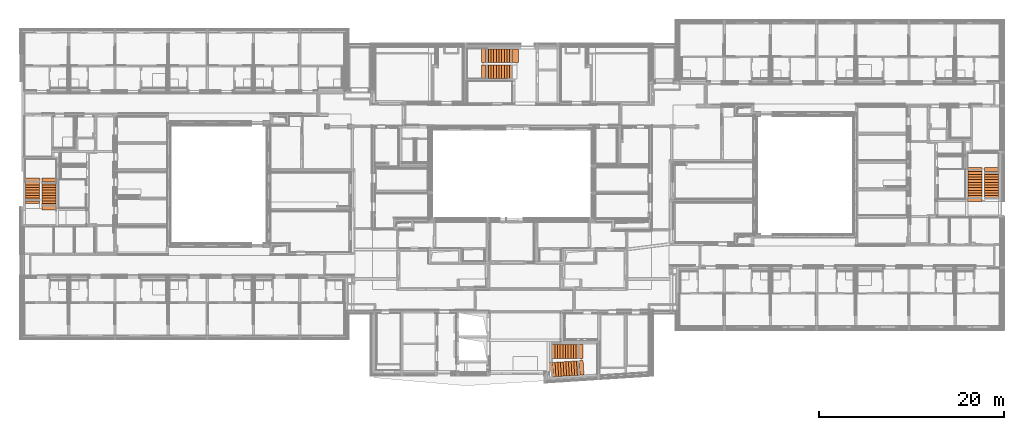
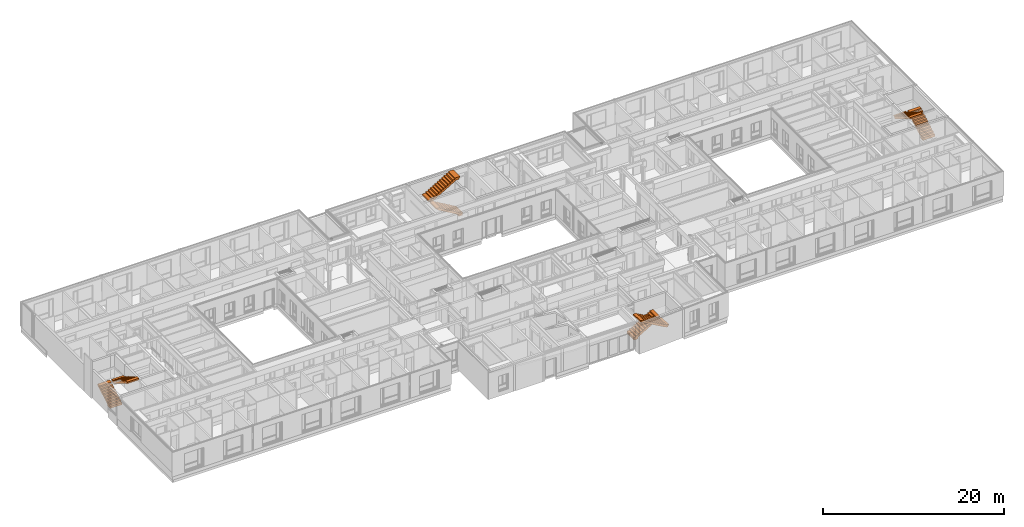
# One storey, part 207 of 207: 8 proxies.
"""IFC4 building model written with IfcOpenShell, lengths in metres."""

from ifc_helpers import new_model, entity, si_unit, converted_unit, derived_unit, frame, origin, place, context, subcontext, project, spatial, faceted_brep, element, save


model = new_model("IFC4")

# Units and contexts
model_context = context("Model", 3, precision=1e-05, world=origin())
body_context = subcontext(model_context, "Body", "Model", "MODEL_VIEW")
ifc_project = project(units=[si_unit("LENGTHUNIT", "METRE"), si_unit("AREAUNIT", "SQUARE_METRE"), si_unit("VOLUMEUNIT", "CUBIC_METRE"), si_unit("MASSUNIT", "GRAM", prefix="KILO"), converted_unit("PLANEANGLEUNIT", "DEGREE", entity("IfcPlaneAngleMeasure", 0.0174532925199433), si_unit("PLANEANGLEUNIT", "RADIAN"), dimensions=[0, 0, 0, 0, 0, 0, 0]), derived_unit("THERMALTRANSMITTANCEUNIT", [(si_unit("POWERUNIT", "WATT"), 1), (si_unit("THERMODYNAMICTEMPERATUREUNIT", "KELVIN"), -1), (si_unit("LENGTHUNIT", "METRE"), -2)]), derived_unit("VOLUMETRICFLOWRATEUNIT", [(si_unit("LENGTHUNIT", "METRE"), 3), (converted_unit("TIMEUNIT", "hour", entity("IfcTimeMeasure", 3600.0), si_unit("TIMEUNIT", "SECOND"), dimensions=[0, 0, 1, 0, 0, 0, 0]), -1), (si_unit("LENGTHUNIT", "METRE"), -1)])], contexts=[model_context])

# Site, building, storey
site_placement = place(None, origin())
site = spatial("IfcSite", under=ifc_project, at=site_placement, Name="Psychiatrie Neubau Wunstorf", CompositionType="ELEMENT")
building_placement = place(site_placement, origin())
building = spatial("IfcBuilding", under=site, at=building_placement, Name="Neubau H2 Stationsgebäude", CompositionType="ELEMENT")
storey_placement = place(building_placement, frame((0.0, 0.0, -0.2)))
storey = spatial("IfcBuildingStorey", under=building, at=storey_placement, Name="H2 Ebene 0", CompositionType="ELEMENT", Elevation=-0.2)

# Proxies
proxy_1_placement = place(storey_placement, frame((0.299999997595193, 12.1349862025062, 0.611)))
element("IfcBuildingElementProxy", 1, at=proxy_1_placement, inside=storey, context=body_context, shape_type="Brep", body=[
    faceted_brep([(0.0, 0.0, 0.0), (1.52, 0.0, 0.0), (1.52, 0.6056840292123, 0.0), (0.0, 0.6056840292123, 0.0), (1.52, 0.6056840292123, 0.192336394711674), (0.0, 0.6056840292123, 0.192336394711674), (1.52, 2.5313581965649, 1.32450000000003), (0.0, 2.5313581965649, 1.32450000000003), (1.52, 2.6299028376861, 1.32450000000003), (0.0, 2.6299028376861, 1.32450000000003), (1.52, 2.64, 1.33459716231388), (0.0, 2.64, 1.33459716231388), (1.52, 2.64, 1.47450000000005), (0.0, 2.64, 1.47450000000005), (1.52, 2.79, 1.47450000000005), (0.0, 2.79, 1.47450000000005), (1.52, 2.79, 1.63450000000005), (0.0, 2.79, 1.63450000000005), (1.52, 2.32, 1.63450000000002), (0.0, 2.32, 1.63450000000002), (1.52, 2.32, 1.46400000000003), (0.0, 2.32, 1.46400000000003), (1.52, 2.03, 1.46400000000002), (0.0, 2.03, 1.46400000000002), (1.52, 2.03, 1.29350000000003), (0.0, 2.03, 1.29350000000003), (1.52, 1.74, 1.29350000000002), (0.0, 1.74, 1.29350000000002), (1.52, 1.74, 1.12300000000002), (0.0, 1.74, 1.12300000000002), (1.52, 1.45, 1.12300000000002), (0.0, 1.45, 1.12300000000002), (1.52, 1.45, 0.952500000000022), (0.0, 1.45, 0.952500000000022), (1.52, 1.16, 0.952500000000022), (0.0, 1.16, 0.952500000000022), (1.52, 1.16, 0.782000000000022), (0.0, 1.16, 0.782000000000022), (1.52, 0.87, 0.782000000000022), (0.0, 0.87, 0.782000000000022), (1.52, 0.87, 0.611500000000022), (0.0, 0.87, 0.611500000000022), (1.52, 0.58, 0.611500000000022), (0.0, 0.58, 0.611500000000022), (1.52, 0.58, 0.441000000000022), (0.0, 0.58, 0.441000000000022), (1.52, 0.29, 0.441000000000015), (0.0, 0.29, 0.441000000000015), (1.52, 0.29, 0.270500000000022), (0.0, 0.29, 0.270500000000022), (1.52, 0.0, 0.270500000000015), (0.0, 0.0, 0.270500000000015)], [[[0, 1, 2, 3]], [[3, 2, 4, 5]], [[5, 4, 6, 7]], [[7, 6, 8, 9]], [[9, 8, 10, 11]], [[11, 10, 12, 13]], [[13, 12, 14, 15]], [[15, 14, 16, 17]], [[17, 16, 18, 19]], [[19, 18, 20, 21]], [[21, 20, 22, 23]], [[23, 22, 24, 25]], [[25, 24, 26, 27]], [[27, 26, 28, 29]], [[29, 28, 30, 31]], [[31, 30, 32, 33]], [[33, 32, 34, 35]], [[35, 34, 36, 37]], [[37, 36, 38, 39]], [[39, 38, 40, 41]], [[41, 40, 42, 43]], [[43, 42, 44, 45]], [[45, 44, 46, 47]], [[47, 46, 48, 49]], [[49, 48, 50, 51]], [[51, 50, 1, 0]], [[0, 3, 5, 7, 9, 11, 13, 15, 17, 19, 21, 23, 25, 27, 29, 31, 33, 35, 37, 39, 41, 43, 45, 47, 49, 51]], [[1, 50, 48, 46, 44, 42, 40, 38, 36, 34, 32, 30, 28, 26, 24, 22, 20, 18, 16, 14, 12, 10, 8, 6, 4, 2]]], orient=[[False], [False], [False], [False], [False], [False], [False], [False], [False], [False], [False], [False], [False], [False], [False], [False], [False], [False], [False], [False], [False], [False], [False], [False], [False], [False], [False], [False]]),
])
proxy_2_placement = place(storey_placement, frame((2.09, 11.456620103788, 1.93550000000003)))
element("IfcBuildingElementProxy", 2, at=proxy_2_placement, inside=storey, context=body_context, shape_type="Brep", body=[
    faceted_brep([(0.0, 3.4683660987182, 0.150000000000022), (1.52, 3.4683660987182, 0.150000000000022), (1.52, 3.4683660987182, 0.310000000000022), (0.0, 3.4683660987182, 0.310000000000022), (1.52, 2.9983660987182, 0.310000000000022), (0.0, 2.9983660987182, 0.310000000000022), (1.52, 2.9983660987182, 0.479999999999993), (0.0, 2.9983660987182, 0.479999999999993), (1.52, 2.7083660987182, 0.479999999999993), (0.0, 2.7083660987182, 0.479999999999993), (1.52, 2.7083660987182, 0.650499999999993), (0.0, 2.7083660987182, 0.650499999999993), (1.52, 2.4183660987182, 0.650499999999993), (0.0, 2.4183660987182, 0.650499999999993), (1.52, 2.4183660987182, 0.820999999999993), (0.0, 2.4183660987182, 0.820999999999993), (1.52, 2.1283660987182, 0.820999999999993), (0.0, 2.1283660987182, 0.820999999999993), (1.52, 2.1283660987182, 0.991499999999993), (0.0, 2.1283660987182, 0.991499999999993), (1.52, 1.8383660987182, 0.991499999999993), (0.0, 1.8383660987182, 0.991499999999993), (1.52, 1.8383660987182, 1.16199999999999), (0.0, 1.8383660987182, 1.16199999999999), (1.52, 1.5483660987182, 1.16199999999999), (0.0, 1.5483660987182, 1.16199999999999), (1.52, 1.5483660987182, 1.33249999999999), (0.0, 1.5483660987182, 1.33249999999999), (1.52, 1.2583660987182, 1.33249999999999), (0.0, 1.2583660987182, 1.33249999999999), (1.52, 1.2583660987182, 1.50299999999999), (0.0, 1.2583660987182, 1.50299999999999), (1.52, 0.968366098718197, 1.50299999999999), (0.0, 0.968366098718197, 1.50299999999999), (1.52, 0.968366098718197, 1.67349999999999), (0.0, 0.968366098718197, 1.67349999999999), (1.52, 0.678366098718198, 1.67349999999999), (0.0, 0.678366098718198, 1.67349999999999), (1.52, 0.678366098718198, 1.84399999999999), (0.0, 0.678366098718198, 1.84399999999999), (1.52, 0.388366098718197, 1.84399999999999), (0.0, 0.388366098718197, 1.84399999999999), (1.52, 0.388366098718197, 2.01449999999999), (0.0, 0.388366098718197, 2.01449999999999), (1.52, 0.0, 2.01450000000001), (0.0, 0.0, 2.01450000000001), (1.52, 0.0, 1.83436457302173), (0.0, 0.0, 1.83436457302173), (1.52, 0.149928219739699, 1.83436457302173), (0.0, 0.149928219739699, 1.83436457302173), (1.52, 0.149928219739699, 1.67446173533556), (0.0, 0.149928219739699, 1.67446173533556), (1.52, 0.158256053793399, 1.66449999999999), (0.0, 0.158256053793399, 1.66449999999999), (1.52, 0.245043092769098, 1.66449999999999), (0.0, 0.245043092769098, 1.66449999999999), (1.52, 3.0761574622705, 0.0), (0.0, 3.0761574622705, 0.0), (1.52, 3.3082689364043, 0.0), (0.0, 3.3082689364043, 0.0), (1.52, 3.3183660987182, 0.0100971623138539), (0.0, 3.3183660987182, 0.0100971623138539), (1.52, 3.3183660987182, 0.150000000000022), (0.0, 3.3183660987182, 0.150000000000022)], [[[0, 1, 2, 3]], [[3, 2, 4, 5]], [[5, 4, 6, 7]], [[7, 6, 8, 9]], [[9, 8, 10, 11]], [[11, 10, 12, 13]], [[13, 12, 14, 15]], [[15, 14, 16, 17]], [[17, 16, 18, 19]], [[19, 18, 20, 21]], [[21, 20, 22, 23]], [[23, 22, 24, 25]], [[25, 24, 26, 27]], [[27, 26, 28, 29]], [[29, 28, 30, 31]], [[31, 30, 32, 33]], [[33, 32, 34, 35]], [[35, 34, 36, 37]], [[37, 36, 38, 39]], [[39, 38, 40, 41]], [[41, 40, 42, 43]], [[43, 42, 44, 45]], [[45, 44, 46, 47]], [[47, 46, 48, 49]], [[49, 48, 50, 51]], [[51, 50, 52, 53]], [[53, 52, 54, 55]], [[55, 54, 56, 57]], [[57, 56, 58, 59]], [[59, 58, 60, 61]], [[61, 60, 62, 63]], [[63, 62, 1, 0]], [[0, 3, 5, 7, 9, 11, 13, 15, 17, 19, 21, 23, 25, 27, 29, 31, 33, 35, 37, 39, 41, 43, 45, 47, 49, 51, 53, 55, 57, 59, 61, 63]], [[1, 62, 60, 58, 56, 54, 52, 50, 48, 46, 44, 42, 40, 38, 36, 34, 32, 30, 28, 26, 24, 22, 20, 18, 16, 14, 12, 10, 8, 6, 4, 2]]], orient=[[False], [False], [False], [False], [False], [False], [False], [False], [False], [False], [False], [False], [False], [False], [False], [False], [False], [False], [False], [False], [False], [False], [False], [False], [False], [False], [False], [False], [False], [False], [False], [False], [False], [False]]),
])
proxy_3_placement = place(storey_placement, frame((49.7090060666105, 25.6549999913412, 0.01)))
element("IfcBuildingElementProxy", 3, at=proxy_3_placement, inside=storey, context=body_context, shape_type="Brep", body=[
    faceted_brep([(0.435993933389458, 1.48509006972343, 2.06500000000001), (0.435993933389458, 0.0, 2.06500000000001), (0.0, 0.0, 2.06500000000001), (0.0, 1.48509006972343, 2.06500000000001), (0.0, 0.0, 1.90500000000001), (0.0, 1.48509006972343, 1.90500000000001), (0.15, 0.0, 1.90500000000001), (0.15, 1.48509006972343, 1.90500000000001), (0.15, 0.0, 1.76509716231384), (0.15, 1.48509006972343, 1.76509716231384), (0.160097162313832, 0.0, 1.75500000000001), (0.160097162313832, 1.48509006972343, 1.75500000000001), (0.224635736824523, 0.0, 1.75500000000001), (0.224635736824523, 1.48509006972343, 1.75500000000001), (2.81599393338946, 0.0, 0.231460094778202), (2.81599393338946, 1.48509006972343, 0.231460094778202), (2.81599393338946, 0.0, 0.0), (2.81599393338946, 1.48509006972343, 0.0), (3.31599393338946, 0.0, 0.0), (3.31599393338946, 1.48509006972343, 0.0), (3.31599393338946, 0.0, 0.19), (3.31599393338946, 1.48509006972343, 0.19), (3.33599393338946, 0.0, 0.19), (3.33599393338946, 1.48509006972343, 0.19), (3.33599393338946, 0.0, 0.36), (3.33599393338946, 1.48509006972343, 0.36), (3.04599393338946, 0.0, 0.36), (3.04599393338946, 1.48509006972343, 0.36), (3.04599393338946, 0.0, 0.5305), (3.04599393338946, 1.48509006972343, 0.5305), (2.75599393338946, 0.0, 0.5305), (2.75599393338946, 1.48509006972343, 0.5305), (2.75599393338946, 0.0, 0.701), (2.75599393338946, 1.48509006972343, 0.701), (2.46599393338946, 0.0, 0.701), (2.46599393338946, 1.48509006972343, 0.701), (2.46599393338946, 0.0, 0.8715), (2.46599393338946, 1.48509006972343, 0.8715), (2.17599393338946, 0.0, 0.8715), (2.17599393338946, 1.48509006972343, 0.8715), (2.17599393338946, 0.0, 1.042), (2.17599393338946, 1.48509006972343, 1.042), (1.88599393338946, 0.0, 1.042), (1.88599393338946, 1.48509006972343, 1.042), (1.88599393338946, 0.0, 1.2125), (1.88599393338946, 1.48509006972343, 1.2125), (1.59599393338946, 0.0, 1.2125), (1.59599393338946, 1.48509006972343, 1.2125), (1.59599393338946, 0.0, 1.383), (1.59599393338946, 1.48509006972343, 1.383), (1.30599393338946, 0.0, 1.383), (1.30599393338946, 1.48509006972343, 1.383), (1.30599393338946, 0.0, 1.5535), (1.30599393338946, 1.48509006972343, 1.5535), (1.01599393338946, 0.0, 1.5535), (1.01599393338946, 1.48509006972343, 1.5535), (1.01599393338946, 0.0, 1.72400000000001), (1.01599393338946, 1.48509006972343, 1.72400000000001), (0.725993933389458, 0.0, 1.72400000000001), (0.725993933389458, 1.48509006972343, 1.72400000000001), (0.725993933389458, 0.0, 1.89450000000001), (0.725993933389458, 1.48509006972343, 1.89450000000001), (0.435993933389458, 0.0, 1.89450000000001), (0.435993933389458, 1.48509006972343, 1.89450000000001)], [[[0, 1, 2, 3]], [[3, 2, 4, 5]], [[5, 4, 6, 7]], [[7, 6, 8, 9]], [[9, 8, 10, 11]], [[11, 10, 12, 13]], [[13, 12, 14, 15]], [[15, 14, 16, 17]], [[17, 16, 18, 19]], [[19, 18, 20, 21]], [[21, 20, 22, 23]], [[23, 22, 24, 25]], [[25, 24, 26, 27]], [[27, 26, 28, 29]], [[29, 28, 30, 31]], [[31, 30, 32, 33]], [[33, 32, 34, 35]], [[35, 34, 36, 37]], [[37, 36, 38, 39]], [[39, 38, 40, 41]], [[41, 40, 42, 43]], [[43, 42, 44, 45]], [[45, 44, 46, 47]], [[47, 46, 48, 49]], [[49, 48, 50, 51]], [[51, 50, 52, 53]], [[53, 52, 54, 55]], [[55, 54, 56, 57]], [[57, 56, 58, 59]], [[59, 58, 60, 61]], [[61, 60, 62, 63]], [[63, 62, 1, 0]], [[0, 3, 5, 7, 9, 11, 13, 15, 17, 19, 21, 23, 25, 27, 29, 31, 33, 35, 37, 39, 41, 43, 45, 47, 49, 51, 53, 55, 57, 59, 61, 63]], [[1, 62, 60, 58, 56, 54, 52, 50, 48, 46, 44, 42, 40, 38, 36, 34, 32, 30, 28, 26, 24, 22, 20, 18, 16, 14, 12, 10, 8, 6, 4, 2]]], orient=[[False], [False], [False], [False], [False], [False], [False], [False], [False], [False], [False], [False], [False], [False], [False], [False], [False], [False], [False], [False], [False], [False], [False], [False], [False], [False], [False], [False], [False], [False], [False], [False], [False], [False]]),
])
proxy_4_placement = place(storey_placement, frame((49.7092884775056, 27.3903847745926, 1.76500000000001)))
element("IfcBuildingElementProxy", 4, at=proxy_4_placement, inside=storey, context=body_context, shape_type="Brep", body=[
    faceted_brep([(0.0, 1.48461491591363, 0.31), (0.0, 0.0, 0.31), (0.0, 0.0, 0.15), (0.0, 1.48461491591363, 0.15), (0.15, 0.0, 0.15), (0.15, 1.48461491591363, 0.15), (0.15, 0.0, 0.0100971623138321), (0.15, 1.48461491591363, 0.0100971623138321), (0.160097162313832, 0.0, 0.0), (0.160097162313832, 1.48461491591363, 0.0), (0.359471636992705, 0.0, 0.0), (0.359471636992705, 1.48461491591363, 0.0), (3.48120324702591, 0.0, 1.83536289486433), (3.48120324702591, 1.48461491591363, 1.83536289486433), (3.81086439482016, 0.0, 1.83499999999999), (3.81086439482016, 1.48461491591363, 1.83499999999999), (3.82099393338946, 0.0, 1.84512953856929), (3.82099393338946, 1.48461491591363, 1.84512953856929), (3.82099393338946, 0.0, 2.00499999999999), (3.82099393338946, 1.48461491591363, 2.00499999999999), (3.97099393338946, 0.0, 2.00499999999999), (3.97099393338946, 1.48461491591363, 2.00499999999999), (3.97099393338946, 0.0, 2.18499999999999), (3.97099393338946, 1.48461491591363, 2.18499999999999), (3.33599393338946, 0.0, 2.18499999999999), (3.33599393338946, 1.48461491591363, 2.18499999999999), (3.33599393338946, 0.0, 2.01449999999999), (3.33599393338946, 1.48461491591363, 2.01449999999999), (3.04599393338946, 0.0, 2.01449999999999), (3.04599393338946, 1.48461491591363, 2.01449999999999), (3.04599393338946, 0.0, 1.84399999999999), (3.04599393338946, 1.48461491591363, 1.84399999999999), (2.75599393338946, 0.0, 1.84399999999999), (2.75599393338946, 1.48461491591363, 1.84399999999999), (2.75599393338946, 0.0, 1.67349999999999), (2.75599393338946, 1.48461491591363, 1.67349999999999), (2.46599393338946, 0.0, 1.67349999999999), (2.46599393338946, 1.48461491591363, 1.67349999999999), (2.46599393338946, 0.0, 1.50299999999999), (2.46599393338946, 1.48461491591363, 1.50299999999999), (2.17599393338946, 0.0, 1.50299999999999), (2.17599393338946, 1.48461491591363, 1.50299999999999), (2.17599393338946, 0.0, 1.33249999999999), (2.17599393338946, 1.48461491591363, 1.33249999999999), (1.88599393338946, 0.0, 1.33249999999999), (1.88599393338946, 1.48461491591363, 1.33249999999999), (1.88599393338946, 0.0, 1.162), (1.88599393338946, 1.48461491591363, 1.162), (1.59599393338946, 0.0, 1.162), (1.59599393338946, 1.48461491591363, 1.162), (1.59599393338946, 0.0, 0.9915), (1.59599393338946, 1.48461491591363, 0.9915), (1.30599393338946, 0.0, 0.9915), (1.30599393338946, 1.48461491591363, 0.9915), (1.30599393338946, 0.0, 0.821), (1.30599393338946, 1.48461491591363, 0.821), (1.01599393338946, 0.0, 0.821), (1.01599393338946, 1.48461491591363, 0.821), (1.01599393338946, 0.0, 0.6505), (1.01599393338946, 1.48461491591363, 0.6505), (0.725993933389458, 0.0, 0.6505), (0.725993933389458, 1.48461491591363, 0.6505), (0.725993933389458, 0.0, 0.48), (0.725993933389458, 1.48461491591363, 0.48), (0.435993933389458, 0.0, 0.48), (0.435993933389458, 1.48461491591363, 0.48), (0.435993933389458, 0.0, 0.31), (0.435993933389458, 1.48461491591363, 0.31)], [[[0, 1, 2, 3]], [[3, 2, 4, 5]], [[5, 4, 6, 7]], [[7, 6, 8, 9]], [[9, 8, 10, 11]], [[11, 10, 12, 13]], [[13, 12, 14, 15]], [[15, 14, 16, 17]], [[17, 16, 18, 19]], [[19, 18, 20, 21]], [[21, 20, 22, 23]], [[23, 22, 24, 25]], [[25, 24, 26, 27]], [[27, 26, 28, 29]], [[29, 28, 30, 31]], [[31, 30, 32, 33]], [[33, 32, 34, 35]], [[35, 34, 36, 37]], [[37, 36, 38, 39]], [[39, 38, 40, 41]], [[41, 40, 42, 43]], [[43, 42, 44, 45]], [[45, 44, 46, 47]], [[47, 46, 48, 49]], [[49, 48, 50, 51]], [[51, 50, 52, 53]], [[53, 52, 54, 55]], [[55, 54, 56, 57]], [[57, 56, 58, 59]], [[59, 58, 60, 61]], [[61, 60, 62, 63]], [[63, 62, 64, 65]], [[65, 64, 66, 67]], [[67, 66, 1, 0]], [[0, 3, 5, 7, 9, 11, 13, 15, 17, 19, 21, 23, 25, 27, 29, 31, 33, 35, 37, 39, 41, 43, 45, 47, 49, 51, 53, 55, 57, 59, 61, 63, 65, 67]], [[1, 66, 64, 62, 60, 58, 56, 54, 52, 50, 48, 46, 44, 42, 40, 38, 36, 34, 32, 30, 28, 26, 24, 22, 20, 18, 16, 14, 12, 10, 8, 6, 4, 2]]], orient=[[False], [False], [False], [False], [False], [False], [False], [False], [False], [False], [False], [False], [False], [False], [False], [False], [False], [False], [False], [False], [False], [False], [False], [False], [False], [False], [False], [False], [False], [False], [False], [False], [False], [False], [False], [False]]),
])
proxy_5_placement = place(storey_placement, frame((102.39000030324, 12.335, 1.76500000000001)))
element("IfcBuildingElementProxy", 5, at=proxy_5_placement, inside=storey, context=body_context, shape_type="Brep", body=[
    faceted_brep([(1.52, 3.68099393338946, 0.31), (0.0, 3.68099393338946, 0.31), (0.0, 3.68099393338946, 0.15), (1.52, 3.68099393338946, 0.15), (0.0, 3.53099393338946, 0.15), (1.52, 3.53099393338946, 0.15), (0.0, 3.53099393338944, 0.0100971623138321), (1.52, 3.53099393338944, 0.0100971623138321), (0.0, 3.52089677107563, 0.0), (1.52, 3.52089677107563, 0.0), (0.0, 3.33652229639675, 0.0), (1.52, 3.33652229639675, 0.0), (0.0, 0.215407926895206, 1.83499999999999), (1.52, 0.215407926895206, 1.83499999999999), (0.0, 0.160129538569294, 1.83499999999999), (1.52, 0.160129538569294, 1.83499999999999), (0.0, 0.15, 1.84512953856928), (1.52, 0.15, 1.84512953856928), (0.0, 0.15, 2.00499999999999), (1.52, 0.15, 2.00499999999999), (0.0, 0.0, 2.00499999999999), (1.52, 0.0, 2.00499999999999), (0.0, 0.0, 2.18499999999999), (1.52, 0.0, 2.18499999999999), (0.0, 0.36, 2.18499999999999), (1.52, 0.36, 2.18499999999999), (0.0, 0.36, 2.01449999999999), (1.52, 0.36, 2.01449999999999), (0.0, 0.65, 2.01449999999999), (1.52, 0.65, 2.01449999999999), (0.0, 0.65, 1.84399999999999), (1.52, 0.65, 1.84399999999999), (0.0, 0.94, 1.84399999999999), (1.52, 0.94, 1.84399999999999), (0.0, 0.94, 1.67349999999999), (1.52, 0.94, 1.67349999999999), (0.0, 1.23, 1.67349999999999), (1.52, 1.23, 1.67349999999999), (0.0, 1.23, 1.50299999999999), (1.52, 1.23, 1.50299999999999), (0.0, 1.52, 1.50299999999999), (1.52, 1.52, 1.50299999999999), (0.0, 1.52, 1.33249999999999), (1.52, 1.52, 1.33249999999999), (0.0, 1.81, 1.33249999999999), (1.52, 1.81, 1.33249999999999), (0.0, 1.81, 1.162), (1.52, 1.81, 1.162), (0.0, 2.1, 1.162), (1.52, 2.1, 1.162), (0.0, 2.1, 0.9915), (1.52, 2.1, 0.9915), (0.0, 2.39, 0.9915), (1.52, 2.39, 0.9915), (0.0, 2.39, 0.821), (1.52, 2.39, 0.821), (0.0, 2.68, 0.821), (1.52, 2.68, 0.821), (0.0, 2.68, 0.6505), (1.52, 2.68, 0.6505), (0.0, 2.97, 0.6505), (1.52, 2.97, 0.6505), (0.0, 2.97, 0.48), (1.52, 2.97, 0.48), (0.0, 3.26, 0.48), (1.52, 3.26, 0.48), (0.0, 3.25999999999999, 0.309999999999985), (1.52, 3.25999999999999, 0.309999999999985)], [[[0, 1, 2, 3]], [[3, 2, 4, 5]], [[5, 4, 6, 7]], [[7, 6, 8, 9]], [[9, 8, 10, 11]], [[11, 10, 12, 13]], [[13, 12, 14, 15]], [[15, 14, 16, 17]], [[17, 16, 18, 19]], [[19, 18, 20, 21]], [[21, 20, 22, 23]], [[23, 22, 24, 25]], [[25, 24, 26, 27]], [[27, 26, 28, 29]], [[29, 28, 30, 31]], [[31, 30, 32, 33]], [[33, 32, 34, 35]], [[35, 34, 36, 37]], [[37, 36, 38, 39]], [[39, 38, 40, 41]], [[41, 40, 42, 43]], [[43, 42, 44, 45]], [[45, 44, 46, 47]], [[47, 46, 48, 49]], [[49, 48, 50, 51]], [[51, 50, 52, 53]], [[53, 52, 54, 55]], [[55, 54, 56, 57]], [[57, 56, 58, 59]], [[59, 58, 60, 61]], [[61, 60, 62, 63]], [[63, 62, 64, 65]], [[65, 64, 66, 67]], [[67, 66, 1, 0]], [[0, 3, 5, 7, 9, 11, 13, 15, 17, 19, 21, 23, 25, 27, 29, 31, 33, 35, 37, 39, 41, 43, 45, 47, 49, 51, 53, 55, 57, 59, 61, 63, 65, 67]], [[1, 66, 64, 62, 60, 58, 56, 54, 52, 50, 48, 46, 44, 42, 40, 38, 36, 34, 32, 30, 28, 26, 24, 22, 20, 18, 16, 14, 12, 10, 8, 6, 4, 2]]], orient=[[False], [False], [False], [False], [False], [False], [False], [False], [False], [False], [False], [False], [False], [False], [False], [False], [False], [False], [False], [False], [False], [False], [False], [False], [False], [False], [False], [False], [False], [False], [False], [False], [False], [False], [False], [False]]),
])
proxy_6_placement = place(storey_placement, frame((104.175000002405, 12.695, 0.01)))
element("IfcBuildingElementProxy", 6, at=proxy_6_placement, inside=storey, context=body_context, shape_type="Brep", body=[
    faceted_brep([(1.525, 0.52, 0.0), (0.0, 0.52, 0.0), (0.0, 0.0, 0.0), (1.525, 0.0, 0.0), (0.0, 0.0, 0.36), (1.525, 0.0, 0.36), (0.0, 0.29, 0.36), (1.525, 0.29, 0.36), (0.0, 0.29, 0.5305), (1.525, 0.29, 0.5305), (0.0, 0.58, 0.5305), (1.525, 0.58, 0.5305), (0.0, 0.58, 0.701), (1.525, 0.58, 0.701), (0.0, 0.87, 0.701), (1.525, 0.87, 0.701), (0.0, 0.87, 0.8715), (1.525, 0.87, 0.8715), (0.0, 1.16, 0.8715), (1.525, 1.16, 0.8715), (0.0, 1.16, 1.04199999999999), (1.525, 1.16, 1.04199999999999), (0.0, 1.45, 1.042), (1.525, 1.45, 1.042), (0.0, 1.45, 1.21249999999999), (1.525, 1.45, 1.21249999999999), (0.0, 1.74, 1.2125), (1.525, 1.74, 1.2125), (0.0, 1.74, 1.38299999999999), (1.525, 1.74, 1.38299999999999), (0.0, 2.03, 1.383), (1.525, 2.03, 1.383), (0.0, 2.03, 1.5535), (1.525, 2.03, 1.5535), (0.0, 2.32, 1.5535), (1.525, 2.32, 1.5535), (0.0, 2.32, 1.72400000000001), (1.525, 2.32, 1.72400000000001), (0.0, 2.61, 1.72400000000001), (1.525, 2.61, 1.72400000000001), (0.0, 2.61, 1.89450000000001), (1.525, 2.61, 1.89450000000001), (0.0, 2.9, 1.89450000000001), (1.525, 2.9, 1.89450000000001), (0.0, 2.89999999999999, 2.065), (1.525, 2.89999999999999, 2.065), (0.0, 3.32099393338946, 2.06500000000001), (1.525, 3.32099393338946, 2.06500000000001), (0.0, 3.32099393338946, 1.90500000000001), (1.525, 3.32099393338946, 1.90500000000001), (0.0, 3.17099393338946, 1.90500000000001), (1.525, 3.17099393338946, 1.90500000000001), (0.0, 3.17099393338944, 1.76509716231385), (1.525, 3.17099393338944, 1.76509716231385), (0.0, 3.16089677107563, 1.75500000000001), (1.525, 3.16089677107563, 1.75500000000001), (0.0, 3.11135819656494, 1.75500000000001), (1.525, 3.11135819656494, 1.75500000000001), (0.0, 0.52, 0.231460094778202), (1.525, 0.52, 0.231460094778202)], [[[0, 1, 2, 3]], [[3, 2, 4, 5]], [[5, 4, 6, 7]], [[7, 6, 8, 9]], [[9, 8, 10, 11]], [[11, 10, 12, 13]], [[13, 12, 14, 15]], [[15, 14, 16, 17]], [[17, 16, 18, 19]], [[19, 18, 20, 21]], [[21, 20, 22, 23]], [[23, 22, 24, 25]], [[25, 24, 26, 27]], [[27, 26, 28, 29]], [[29, 28, 30, 31]], [[31, 30, 32, 33]], [[33, 32, 34, 35]], [[35, 34, 36, 37]], [[37, 36, 38, 39]], [[39, 38, 40, 41]], [[41, 40, 42, 43]], [[43, 42, 44, 45]], [[45, 44, 46, 47]], [[47, 46, 48, 49]], [[49, 48, 50, 51]], [[51, 50, 52, 53]], [[53, 52, 54, 55]], [[55, 54, 56, 57]], [[57, 56, 58, 59]], [[59, 58, 1, 0]], [[0, 3, 5, 7, 9, 11, 13, 15, 17, 19, 21, 23, 25, 27, 29, 31, 33, 35, 37, 39, 41, 43, 45, 47, 49, 51, 53, 55, 57, 59]], [[1, 58, 56, 54, 52, 50, 48, 46, 44, 42, 40, 38, 36, 34, 32, 30, 28, 26, 24, 22, 20, 18, 16, 14, 12, 10, 8, 6, 4, 2]]], orient=[[False], [False], [False], [False], [False], [False], [False], [False], [False], [False], [False], [False], [False], [False], [False], [False], [False], [False], [False], [False], [False], [False], [False], [False], [False], [False], [False], [False], [False], [False], [False], [False]]),
])
proxy_7_placement = place(storey_placement, frame((56.9771164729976, -6.66248560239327, 1.7655)))
element("IfcBuildingElementProxy", 7, at=proxy_7_placement, inside=storey, context=body_context, shape_type="Brep", body=[
    faceted_brep([(3.72455281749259, 1.79445503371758, 0.31), (3.82436263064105, 0.23899481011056, 0.31), (3.38915131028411, 0.211068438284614, 0.31), (3.28934149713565, 1.76652866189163, 0.31), (3.38915131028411, 0.211068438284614, 0.479500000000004), (3.28934149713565, 1.76652866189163, 0.479500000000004), (3.09974650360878, 0.192498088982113, 0.479500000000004), (2.99993669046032, 1.74795831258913, 0.479500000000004), (3.09974650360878, 0.192498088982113, 0.650000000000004), (2.99993669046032, 1.74795831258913, 0.650000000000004), (2.81034169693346, 0.173927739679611, 0.650000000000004), (2.710531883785, 1.72938796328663, 0.650000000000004), (2.81034169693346, 0.173927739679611, 0.820500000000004), (2.710531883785, 1.72938796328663, 0.820500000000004), (2.52093689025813, 0.15535739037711, 0.820500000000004), (2.42112707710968, 1.71081761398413, 0.820500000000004), (2.52093689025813, 0.15535739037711, 0.991000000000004), (2.42112707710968, 1.71081761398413, 0.991000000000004), (2.2315320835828, 0.136787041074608, 0.991000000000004), (2.13172227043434, 1.69224726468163, 0.991000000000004), (2.2315320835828, 0.136787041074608, 1.1615), (2.13172227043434, 1.69224726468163, 1.1615), (1.94212727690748, 0.118216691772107, 1.1615), (1.84231746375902, 1.67367691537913, 1.1615), (1.94212727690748, 0.118216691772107, 1.332), (1.84231746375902, 1.67367691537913, 1.332), (1.65272247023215, 0.0996463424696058, 1.332), (1.5529126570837, 1.65510656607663, 1.332), (1.65272247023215, 0.0996463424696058, 1.5025), (1.5529126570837, 1.65510656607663, 1.5025), (1.36331766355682, 0.0810759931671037, 1.5025), (1.26350785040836, 1.63653621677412, 1.5025), (1.36331766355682, 0.0810759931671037, 1.673), (1.26350785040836, 1.63653621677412, 1.673), (1.0739128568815, 0.0625056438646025, 1.673), (0.974103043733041, 1.61796586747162, 1.673), (1.0739128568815, 0.0625056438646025, 1.8435), (0.974103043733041, 1.61796586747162, 1.8435), (0.784508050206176, 0.0439352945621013, 1.8435), (0.684698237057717, 1.59939551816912, 1.8435), (0.784508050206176, 0.0439352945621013, 2.014), (0.684698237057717, 1.59939551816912, 2.014), (0.495103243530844, 0.0253649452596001, 2.014), (0.395293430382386, 1.58082516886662, 2.014), (0.495103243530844, 0.0253649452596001, 2.1845), (0.395293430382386, 1.58082516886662, 2.1845), (0.0998098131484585, 0.0, 2.18449999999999), (0.0, 1.55546022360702, 2.18449999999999), (0.0998098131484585, 0.0, 2.00449999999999), (0.0, 1.55546022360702, 2.00449999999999), (0.249501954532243, 0.00960535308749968, 2.00449999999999), (0.149692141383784, 1.56506557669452, 2.00449999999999), (0.249501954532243, 0.00960535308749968, 1.84451172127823), (0.149692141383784, 1.56506557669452, 1.84451172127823), (0.259504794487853, 0.0102472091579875, 1.83449999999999), (0.159694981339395, 1.56570743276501, 1.83449999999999), (0.352074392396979, 0.0161871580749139, 1.83449999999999), (0.25226457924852, 1.57164738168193, 1.83449999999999), (3.46593432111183, 0.215995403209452, 0.0), (3.36612450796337, 1.77145562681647, 0.0), (3.66509302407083, 0.228774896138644, 0.0), (3.56528321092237, 1.78423511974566, 0.0), (3.67467048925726, 0.22938945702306, 0.00959716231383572), (3.5748606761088, 1.78484968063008, 0.00959716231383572), (3.67467048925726, 0.229389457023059, 0.15), (3.5748606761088, 1.78484968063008, 0.15), (3.82436263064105, 0.23899481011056, 0.15), (3.72455281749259, 1.79445503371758, 0.15)], [[[0, 1, 2, 3]], [[3, 2, 4, 5]], [[5, 4, 6, 7]], [[7, 6, 8, 9]], [[9, 8, 10, 11]], [[11, 10, 12, 13]], [[13, 12, 14, 15]], [[15, 14, 16, 17]], [[17, 16, 18, 19]], [[19, 18, 20, 21]], [[21, 20, 22, 23]], [[23, 22, 24, 25]], [[25, 24, 26, 27]], [[27, 26, 28, 29]], [[29, 28, 30, 31]], [[31, 30, 32, 33]], [[33, 32, 34, 35]], [[35, 34, 36, 37]], [[37, 36, 38, 39]], [[39, 38, 40, 41]], [[41, 40, 42, 43]], [[43, 42, 44, 45]], [[45, 44, 46, 47]], [[47, 46, 48, 49]], [[49, 48, 50, 51]], [[51, 50, 52, 53]], [[53, 52, 54, 55]], [[55, 54, 56, 57]], [[57, 56, 58, 59]], [[59, 58, 60, 61]], [[61, 60, 62, 63]], [[63, 62, 64, 65]], [[65, 64, 66, 67]], [[67, 66, 1, 0]], [[0, 3, 5, 7, 9, 11, 13, 15, 17, 19, 21, 23, 25, 27, 29, 31, 33, 35, 37, 39, 41, 43, 45, 47, 49, 51, 53, 55, 57, 59, 61, 63, 65, 67]], [[1, 66, 64, 62, 60, 58, 56, 54, 52, 50, 48, 46, 44, 42, 40, 38, 36, 34, 32, 30, 28, 26, 24, 22, 20, 18, 16, 14, 12, 10, 8, 6, 4, 2]]], orient=[[False], [False], [False], [False], [False], [False], [False], [False], [False], [False], [False], [False], [False], [False], [False], [False], [False], [False], [False], [False], [False], [False], [False], [False], [False], [False], [False], [False], [False], [False], [False], [False], [False], [False], [False], [False]]),
])
proxy_8_placement = place(storey_placement, frame((57.3398155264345, -4.64756372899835, 0.01)))
element("IfcBuildingElementProxy", 8, at=proxy_8_placement, inside=storey, context=body_context, shape_type="Brep", body=[
    faceted_brep([(0.02, 1.53907241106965, 0.0), (0.02, 0.0, 0.0), (0.52, 0.0, 0.0), (0.52, 1.53907241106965, 0.0), (0.52, 0.0, 0.231960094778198), (0.52, 1.53907241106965, 0.231960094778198), (3.11135819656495, 0.0, 1.7555), (3.11135819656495, 1.53907241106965, 1.7555), (3.17650921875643, 0.0, 1.7555), (3.17650921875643, 1.53907241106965, 1.7555), (3.18610638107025, 0.0, 1.76509716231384), (3.18610638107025, 1.53907241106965, 1.76509716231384), (3.18610638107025, 0.0, 1.9055), (3.18610638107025, 1.53907241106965, 1.9055), (3.33610638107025, 0.0, 1.9055), (3.33610638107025, 1.53907241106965, 1.9055), (3.33610638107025, 0.0, 2.0655), (3.33610638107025, 1.53907241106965, 2.0655), (2.9, 0.0, 2.0655), (2.9, 1.53907241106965, 2.0655), (2.9, 0.0, 1.895), (2.9, 1.53907241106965, 1.895), (2.61, 0.0, 1.895), (2.61, 1.53907241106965, 1.895), (2.61, 0.0, 1.7245), (2.61, 1.53907241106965, 1.7245), (2.32, 0.0, 1.7245), (2.32, 1.53907241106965, 1.7245), (2.32, 0.0, 1.554), (2.32, 1.53907241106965, 1.554), (2.03, 0.0, 1.554), (2.03, 1.53907241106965, 1.554), (2.03, 0.0, 1.3835), (2.03, 1.53907241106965, 1.3835), (1.74, 0.0, 1.3835), (1.74, 1.53907241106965, 1.3835), (1.74, 0.0, 1.213), (1.74, 1.53907241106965, 1.213), (1.45, 0.0, 1.213), (1.45, 1.53907241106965, 1.213), (1.45, 0.0, 1.0425), (1.45, 1.53907241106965, 1.0425), (1.16, 0.0, 1.0425), (1.16, 1.53907241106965, 1.0425), (1.16, 0.0, 0.872000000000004), (1.16, 1.53907241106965, 0.872000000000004), (0.87, 0.0, 0.872000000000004), (0.87, 1.53907241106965, 0.872000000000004), (0.87, 0.0, 0.701500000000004), (0.87, 1.53907241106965, 0.701500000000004), (0.58, 0.0, 0.701500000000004), (0.58, 1.53907241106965, 0.701500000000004), (0.58, 0.0, 0.531000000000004), (0.58, 1.53907241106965, 0.531000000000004), (0.29, 0.0, 0.531000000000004), (0.29, 1.53907241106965, 0.531000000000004), (0.29, 0.0, 0.360500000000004), (0.29, 1.53907241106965, 0.360500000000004), (0.0, 0.0, 0.360500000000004), (0.0, 1.53907241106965, 0.360500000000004), (0.0, 0.0, 0.190000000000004), (0.0, 1.53907241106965, 0.190000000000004), (0.02, 0.0, 0.190000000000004), (0.02, 1.53907241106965, 0.190000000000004)], [[[0, 1, 2, 3]], [[3, 2, 4, 5]], [[5, 4, 6, 7]], [[7, 6, 8, 9]], [[9, 8, 10, 11]], [[11, 10, 12, 13]], [[13, 12, 14, 15]], [[15, 14, 16, 17]], [[17, 16, 18, 19]], [[19, 18, 20, 21]], [[21, 20, 22, 23]], [[23, 22, 24, 25]], [[25, 24, 26, 27]], [[27, 26, 28, 29]], [[29, 28, 30, 31]], [[31, 30, 32, 33]], [[33, 32, 34, 35]], [[35, 34, 36, 37]], [[37, 36, 38, 39]], [[39, 38, 40, 41]], [[41, 40, 42, 43]], [[43, 42, 44, 45]], [[45, 44, 46, 47]], [[47, 46, 48, 49]], [[49, 48, 50, 51]], [[51, 50, 52, 53]], [[53, 52, 54, 55]], [[55, 54, 56, 57]], [[57, 56, 58, 59]], [[59, 58, 60, 61]], [[61, 60, 62, 63]], [[63, 62, 1, 0]], [[0, 3, 5, 7, 9, 11, 13, 15, 17, 19, 21, 23, 25, 27, 29, 31, 33, 35, 37, 39, 41, 43, 45, 47, 49, 51, 53, 55, 57, 59, 61, 63]], [[1, 62, 60, 58, 56, 54, 52, 50, 48, 46, 44, 42, 40, 38, 36, 34, 32, 30, 28, 26, 24, 22, 20, 18, 16, 14, 12, 10, 8, 6, 4, 2]]], orient=[[False], [False], [False], [False], [False], [False], [False], [False], [False], [False], [False], [False], [False], [False], [False], [False], [False], [False], [False], [False], [False], [False], [False], [False], [False], [False], [False], [False], [False], [False], [False], [False], [False], [False]]),
])

save(model, "model.ifc")
